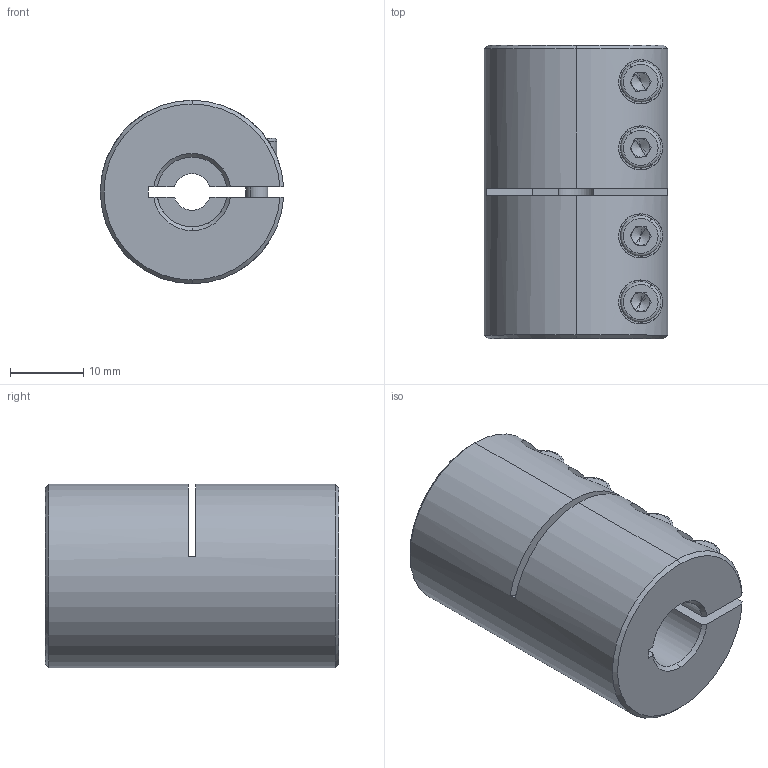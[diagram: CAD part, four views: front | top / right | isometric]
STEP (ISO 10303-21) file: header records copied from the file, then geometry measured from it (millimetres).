
FILE_DESCRIPTION (( 'STEP AP214' ), '1' );
FILE_NAME ('LL-B-D25L40-5-9.525½¨Ä£.STEP', '2022-07-21T05:03:34', ( '' ), ( '' ), 'SwSTEP 2.0', 'SolidWorks 2022', '' );
FILE_SCHEMA (( 'AUTOMOTIVE_DESIGN' ));
Length unit declared in the file: millimetre
Products named in the file (1): LL-B-D25L40-5-9.525膘耀
Bounding box: 24.98 x 40 x 25 mm (x, y, z)
Volume: 16680.2 mm3; surface area: 7142.7 mm2
Topology: 1 solids, 1 shells, 178 faces, 455 edges, 287 vertices
Faces by surface type: plane 85, cylinder 65, cone 20, torus 8
Entity records: 5838 total; most frequent: CARTESIAN_POINT 1437, DIRECTION 946, ORIENTED_EDGE 894, EDGE_CURVE 447, AXIS2_PLACEMENT_3D 364, VERTEX_POINT 287, VECTOR 218, LINE 218
